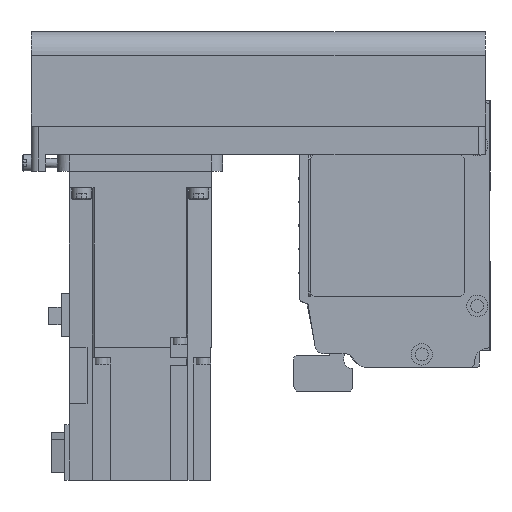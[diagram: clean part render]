
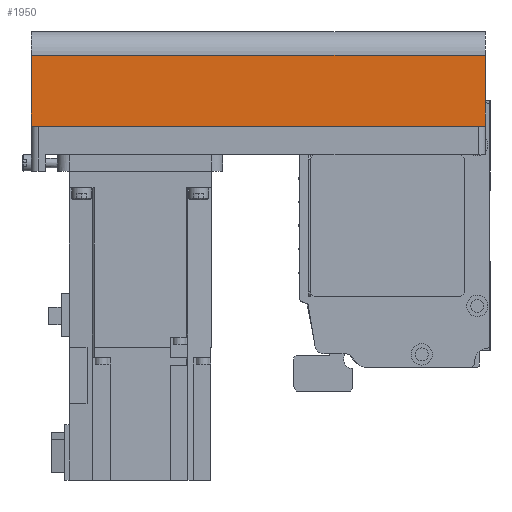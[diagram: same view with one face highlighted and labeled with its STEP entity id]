
A CAD part, left-side view. The second image highlights one B-rep face of the part: STEP entity #1950.
In plain terms, the highlighted planar face has unit normal (-1, 0, 0) as drawn and (0, 1, 0) by its records, which use the part's own axes.
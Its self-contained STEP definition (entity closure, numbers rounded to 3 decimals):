
#1950 = ADVANCED_FACE( '', ( #4166 ), #4167, .T. );
#4166 = FACE_OUTER_BOUND( '', #6582, .T. );
#4167 = PLANE( '', #6583 );
#6582 = EDGE_LOOP( '', ( #11879, #11880, #11881, #11882 ) );
#6583 = AXIS2_PLACEMENT_3D( '', #11883, #11884, #11885 );
#11879 = ORIENTED_EDGE( '', *, *, #14003, .F. );
#11880 = ORIENTED_EDGE( '', *, *, #14143, .F. );
#11881 = ORIENTED_EDGE( '', *, *, #14916, .T. );
#11882 = ORIENTED_EDGE( '', *, *, #15186, .T. );
#11883 = CARTESIAN_POINT( '', ( -192., 40., -42. ) );
#11884 = DIRECTION( '', ( 0., 1., 0. ) );
#11885 = DIRECTION( '', ( 0., 0., 1. ) );
#14003 = EDGE_CURVE( '', #16760, #16761, #16762, .T. );
#14143 = EDGE_CURVE( '', #17003, #16760, #17005, .T. );
#14916 = EDGE_CURVE( '', #17003, #18085, #18250, .T. );
#15186 = EDGE_CURVE( '', #18085, #16761, #18656, .T. );
#16760 = VERTEX_POINT( '', #20640 );
#16761 = VERTEX_POINT( '', #20641 );
#16762 = LINE( '', #20642, #20643 );
#17003 = VERTEX_POINT( '', #20967 );
#17005 = LINE( '', #20969, #20970 );
#18085 = VERTEX_POINT( '', #22417 );
#18250 = LINE( '', #22628, #22629 );
#18656 = LINE( '', #23166, #23167 );
#20640 = CARTESIAN_POINT( '', ( 0., 40., -42. ) );
#20641 = CARTESIAN_POINT( '', ( 0., 40., -12.1 ) );
#20642 = CARTESIAN_POINT( '', ( 0., 40., -42. ) );
#20643 = VECTOR( '', #25190, 1000. );
#20967 = CARTESIAN_POINT( '', ( -192., 40., -42. ) );
#20969 = CARTESIAN_POINT( '', ( -192., 40., -42. ) );
#20970 = VECTOR( '', #25367, 1000. );
#22417 = CARTESIAN_POINT( '', ( -192., 40., -12.1 ) );
#22628 = CARTESIAN_POINT( '', ( -192., 40., -42. ) );
#22629 = VECTOR( '', #26369, 1000. );
#23166 = CARTESIAN_POINT( '', ( -192., 40., -12.1 ) );
#23167 = VECTOR( '', #26729, 1000. );
#25190 = DIRECTION( '', ( 0., 0., 1. ) );
#25367 = DIRECTION( '', ( 1., 0., 0. ) );
#26369 = DIRECTION( '', ( 0., 0., 1. ) );
#26729 = DIRECTION( '', ( 1., 0., 0. ) );
